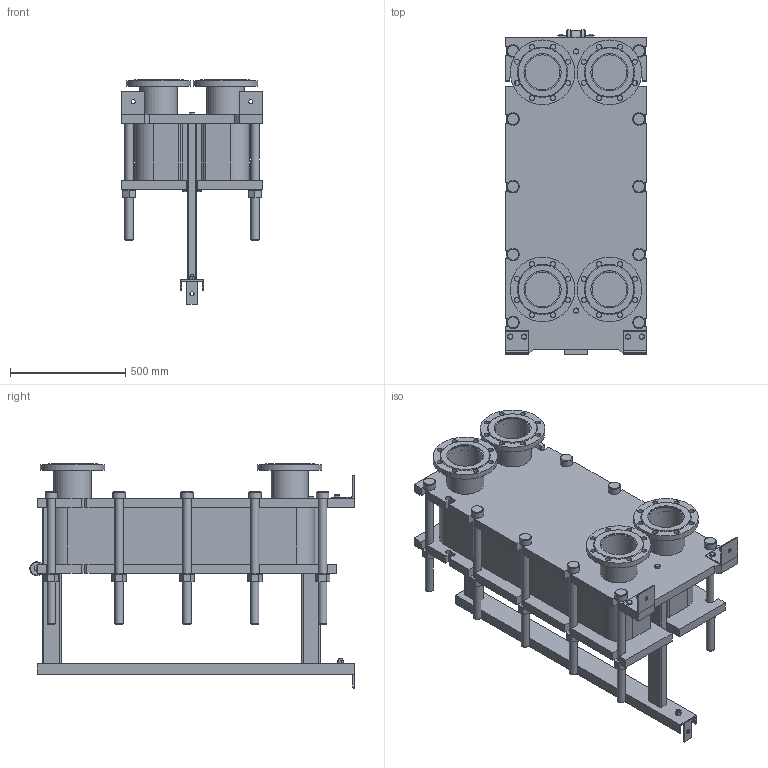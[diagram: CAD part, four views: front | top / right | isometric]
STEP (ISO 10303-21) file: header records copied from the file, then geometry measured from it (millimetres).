
FILE_DESCRIPTION(/* description */ (''),/* implementation_level */ '2;1');
FILE_NAME(/* name */ 'C:\Users\zhuro\Desktop\ENCO\TO\ЭН-041\ЭН-0,5-041-71-1.stp',/* time_stamp */ '2022-06-06T10:55:17+03:00',/* author */ ('zhuro'),/* organization */ (''),/* preprocessor_version */ 'ST-DEVELOPER v18.1',/* originating_system */ 'Autodesk Inventor 2022',/* authorisation */ '');
FILE_SCHEMA (('AUTOMOTIVE_DESIGN { 1 0 10303 214 3 1 1 }'));
Length unit declared in the file: millimetre
Products named in the file (1): ЭН-0,5-041-71-1
Bounding box: 610 x 1406.5 x 972.5 mm (x, y, z)
Volume: 216204259.1 mm3; surface area: 8385084.9 mm2
Topology: 52 solids, 52 shells, 711 faces, 1696 edges, 1094 vertices
Faces by surface type: plane 487, cylinder 177, cone 41, torus 6
Full cylindrical faces by diameter (mm): 8 x4, 10 x2, 16 x8, 18 x3, 22 x32, 36 x24, 50 x1, 54 x10, 60 x12, 151 x4, 161 x8, 280 x4
Entity records: 22667 total; most frequent: CARTESIAN_POINT 5230, DIRECTION 3644, ORIENTED_EDGE 3392, EDGE_CURVE 1696, AXIS2_PLACEMENT_3D 1272, LINE 1100, VECTOR 1100, VERTEX_POINT 1094
